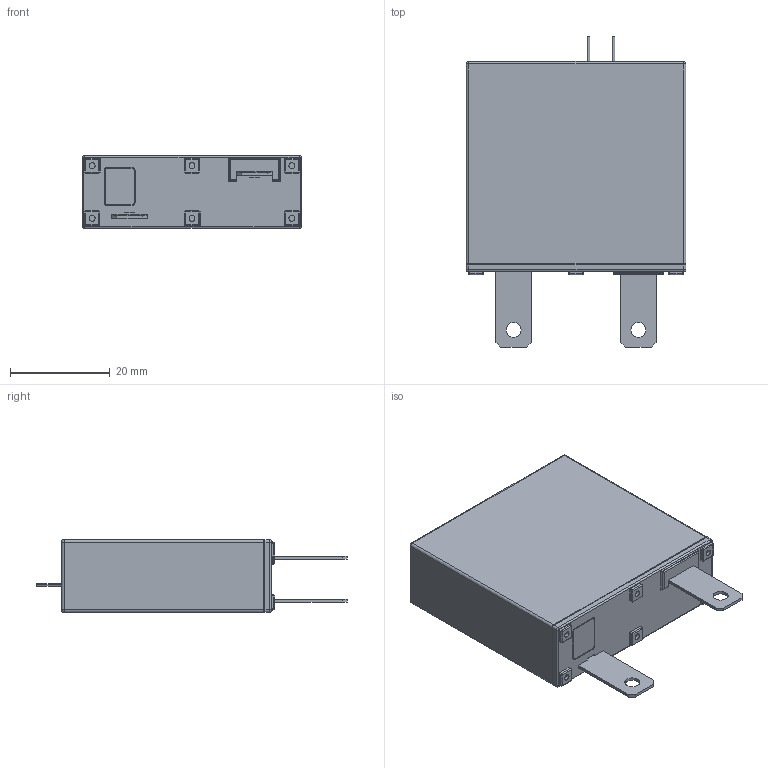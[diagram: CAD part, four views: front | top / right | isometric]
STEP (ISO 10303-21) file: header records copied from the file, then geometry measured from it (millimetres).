
FILE_DESCRIPTION((''),'2;1');
FILE_NAME('TFMOV40K-14-IT-20200620','2020-08-12T',('SET-01114'),(''),'PRO/ENGINEER BY PARAMETRIC TECHNOLOGY CORPORATION, 2012310','PRO/ENGINEER BY PARAMETRIC TECHNOLOGY CORPORATION, 2012310','');
FILE_SCHEMA(('CONFIG_CONTROL_DESIGN','SHAPE_APPEARANCE_LAYERS_GROUPS'));
Length unit declared in the file: millimetre
Products named in the file (1): TFMOV40K-14-IT-20200620
Bounding box: 44 x 62.2 x 14.6 mm (x, y, z)
Volume: 27090.7 mm3; surface area: 6900.7 mm2
Topology: 1 solids, 2 shells, 268 faces, 612 edges, 365 vertices
Faces by surface type: cylinder 116, plane 109, sphere 30, torus 8, bspline 5
Entity records: 9732 total; most frequent: CARTESIAN_POINT 1529, DIRECTION 1320, ORIENTED_EDGE 1224, PRESENTATION_STYLE_ASSIGNMENT 630, STYLED_ITEM 613, CURVE_STYLE 612, EDGE_CURVE 612, AXIS2_PLACEMENT_3D 473
